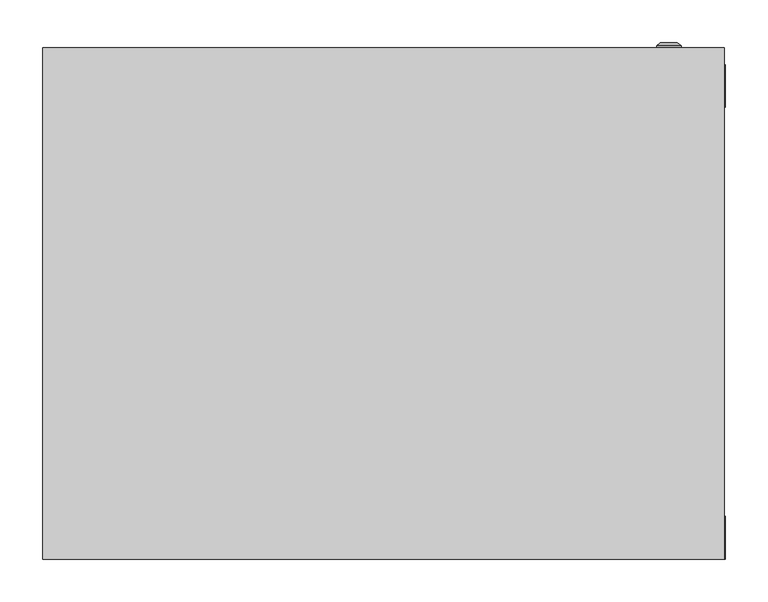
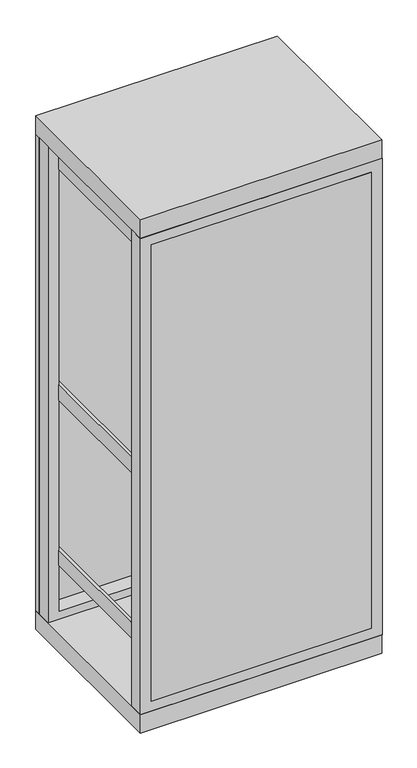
"""IFC4 building model written with IfcOpenShell, lengths in millimetres: proxy geometry, ВРУ-1 : ВРУ-1_1800х800х600."""

import ifcopenshell
import ifcopenshell.guid

model = None  # the IFC model being written
_history = None  # IfcOwnerHistory: only IFC2X3 demands one
_inside = {}  # id of a spatial element -> (the spatial element, [elements in it])
_under = {}  # id of a project, library or spatial element -> (it, [spatial elements below it])
_declared = {}  # id of a project -> (the project, [libraries it declares])
_typed = {}  # id of a type object -> (the type object, [elements of that type])
_made_of = {}  # id of a material, layer set ... -> (it, [elements and type objects made of it])


def new_model(schema):
    """Start an empty IFC model of exactly this schema.

    Asked for "IFC4X3", IfcOpenShell would pick the latest addendum, in which some entities
    have other attributes; the version numbers below select the first issue.
    IFC2X3 requires an IfcOwnerHistory on every rooted entity: one is made here for all.
    """
    global model, _history
    if schema == "IFC4X3":
        model = ifcopenshell.file(schema_version=(4, 3, 0, 0))
    else:
        model = ifcopenshell.file(schema=schema)
    _inside.clear()
    _under.clear()
    _declared.clear()
    _typed.clear()
    _made_of.clear()
    _history = None
    if model.schema == "IFC2X3":
        org = make("IfcOrganization", Name="unknown")
        user = make(
            "IfcPersonAndOrganization",
            ThePerson=make("IfcPerson", FamilyName="unknown"),
            TheOrganization=org,
        )
        app = make(
            "IfcApplication",
            ApplicationDeveloper=org,
            Version="unknown",
            ApplicationFullName="unknown",
            ApplicationIdentifier="unknown",
        )
        _history = make(
            "IfcOwnerHistory",
            OwningUser=user,
            OwningApplication=app,
            ChangeAction="ADDED",
            CreationDate=0,
        )
    return model


def make(cls, **values):
    """One entity of the class cls with the attributes given. An attribute that is None is left unset."""
    return model.create_entity(
        cls, **{name: value for name, value in values.items() if value is not None}
    )


def rooted(cls, **values):
    """An entity with a GlobalId (a new one), such as an element, a storey or a relation."""
    return make(cls, GlobalId=ifcopenshell.guid.new(), OwnerHistory=_history, **values)


def si_unit(unit_type, name, prefix=None):
    """IfcSIUnit, for example si_unit("LENGTHUNIT", "METRE", prefix="MILLI")."""
    return make("IfcSIUnit", UnitType=unit_type, Prefix=prefix, Name=name)


def assignment(units):
    """IfcUnitAssignment: the units of a project."""
    return None if units is None else make("IfcUnitAssignment", Units=units)


def point(xyz):
    """IfcCartesianPoint."""
    return None if xyz is None else make("IfcCartesianPoint", Coordinates=xyz)


def direction(xyz):
    """IfcDirection."""
    return None if xyz is None else make("IfcDirection", DirectionRatios=xyz)


def frame(location, z_axis=None, x_axis=None):
    """IfcAxis2Placement3D, a coordinate frame: its origin and axes. An axis left out is left unset."""
    return make(
        "IfcAxis2Placement3D",
        Location=point(location),
        Axis=direction(z_axis),
        RefDirection=direction(x_axis),
    )


def origin():
    """The frame at (0, 0, 0) with its axes left unset."""
    return frame((0.0, 0.0, 0.0))


def origin_with_axes():
    """The frame at (0, 0, 0) with the z axis (0, 0, 1) and the x axis (1, 0, 0) written out."""
    return frame((0.0, 0.0, 0.0), z_axis=(0.0, 0.0, 1.0), x_axis=(1.0, 0.0, 0.0))


def place(relative_to, where):
    """IfcLocalPlacement: puts the frame where relative to a parent placement (None: the world)."""
    return make(
        "IfcLocalPlacement", PlacementRelTo=relative_to, RelativePlacement=where
    )


def context(
    kind, dimensions, precision=None, world=None, true_north=None, identifier=None
):
    """IfcGeometricRepresentationContext, for example the 3D "Model" context."""
    return make(
        "IfcGeometricRepresentationContext",
        ContextIdentifier=identifier,
        ContextType=kind,
        CoordinateSpaceDimension=dimensions,
        Precision=precision,
        WorldCoordinateSystem=world,
        TrueNorth=true_north,
    )


def project(units=None, contexts=None):
    """IfcProject with its units and contexts."""
    return rooted(
        "IfcProject",
        Name="project",
        RepresentationContexts=contexts,
        UnitsInContext=assignment(units),
    )


def spatial(cls, under=None, at=None, **own):
    """A site, building, storey or space (cls), placed at a placement, below another one or the project."""
    s = rooted(cls, ObjectPlacement=at, **own)
    if under is not None:
        _under.setdefault(under.id(), (under, []))[1].append(s)
    return s


def polyline(points):
    """IfcPolyline through the points."""
    return make("IfcPolyline", Points=[point(p) for p in points])


def circle_curve(where, radius):
    """IfcCircle in the frame where."""
    return make("IfcCircle", Position=where, Radius=radius)


def outline(outer, holes=None, kind="AREA"):
    """IfcArbitraryClosedProfileDef: a profile drawn as a closed curve; with holes, ...WithVoids."""
    if holes is None:
        return make("IfcArbitraryClosedProfileDef", ProfileType=kind, OuterCurve=outer)
    return make(
        "IfcArbitraryProfileDefWithVoids",
        ProfileType=kind,
        OuterCurve=outer,
        InnerCurves=holes,
    )


def extrude(swept, where, along, depth):
    """IfcExtrudedAreaSolid: the profile swept, set in the frame where, extruded along a direction by depth."""
    return make(
        "IfcExtrudedAreaSolid",
        SweptArea=swept,
        Position=where,
        ExtrudedDirection=direction(along),
        Depth=depth,
    )


def shape(context_of_items, identifier, shape_type, items):
    """IfcShapeRepresentation: the items that make up one representation, for example the "Body"."""
    return make(
        "IfcShapeRepresentation",
        ContextOfItems=context_of_items,
        RepresentationIdentifier=identifier,
        RepresentationType=shape_type,
        Items=items,
    )


def source(mapping_origin, context_of_items, identifier, shape_type, items):
    """IfcRepresentationMap: a shape defined once, which mapped items show again and again."""
    return make(
        "IfcRepresentationMap",
        MappingOrigin=mapping_origin,
        MappedRepresentation=shape(context_of_items, identifier, shape_type, items),
    )


def transform(
    local_origin,
    x_axis=None,
    y_axis=None,
    z_axis=None,
    scale=None,
    scale2=None,
    scale3=None,
    uniform=True,
):
    """IfcCartesianTransformationOperator3D, or its non-uniform kind. x_axis, y_axis, z_axis: its Axis1, 2, 3."""
    if uniform:
        return make(
            "IfcCartesianTransformationOperator3D",
            Axis1=direction(x_axis),
            Axis2=direction(y_axis),
            LocalOrigin=point(local_origin),
            Scale=scale,
            Axis3=direction(z_axis),
        )
    return make(
        "IfcCartesianTransformationOperator3DnonUniform",
        Axis1=direction(x_axis),
        Axis2=direction(y_axis),
        LocalOrigin=point(local_origin),
        Scale=scale,
        Axis3=direction(z_axis),
        Scale2=scale2,
        Scale3=scale3,
    )


def mapped(mapping_source, mapping_target):
    """IfcMappedItem: shows the shape of a source again, moved by a transform."""
    return make(
        "IfcMappedItem", MappingSource=mapping_source, MappingTarget=mapping_target
    )


def made_of(thing, what):
    """Note that an element or type object is made of a material, layer set ...; save() writes the relation."""
    if what is not None:
        _made_of.setdefault(what.id(), (what, []))[1].append(thing)
    return thing


def element(
    cls,
    number,
    at=None,
    inside=None,
    cuts=None,
    type_object=None,
    material=None,
    context=None,
    identifier="Body",
    shape_type=None,
    held_by="IfcProductDefinitionShape",
    body=None,
    shapes=None,
    **own,
):
    """One element of the class cls, such as IfcWall. Its Tag is "e" and its number.

    at: its placement. inside: the storey or other place that contains it. cuts: it is an
    opening in that element (IfcRelVoidsElement). A single representation is given by context,
    identifier, shape_type and body (its items); several are given by shapes. held_by: the class
    of the entity that holds the representations. save() writes the other relations.
    """
    e = rooted(cls, Tag="e%d" % number, ObjectPlacement=at, **own)
    if body is not None:
        shapes = [shape(context, identifier, shape_type, body)]
    if shapes is not None:
        e.Representation = make(held_by, Representations=shapes)
    if inside is not None:
        _inside.setdefault(inside.id(), (inside, []))[1].append(e)
    if cuts is not None:
        rooted(
            "IfcRelVoidsElement", RelatingBuildingElement=cuts, RelatedOpeningElement=e
        )
    if type_object is not None:
        _typed.setdefault(type_object.id(), (type_object, []))[1].append(e)
    return made_of(e, material)


def aggregate(whole, parts):
    """IfcRelAggregates: a whole, such as a stair, and the parts it consists of."""
    return rooted("IfcRelAggregates", RelatingObject=whole, RelatedObjects=parts)


def save(model, path):
    """Write the relations noted so far, then the file.

    IfcRelAggregates (storeys below a building ...), IfcRelContainedInSpatialStructure (elements
    in a storey), IfcRelDefinesByType, IfcRelAssociatesMaterial and IfcRelDeclares: one each for
    every whole, place, type object, material and project.
    """
    for whole, parts in _under.values():
        aggregate(whole, parts)
    for where, things in _inside.values():
        rooted(
            "IfcRelContainedInSpatialStructure",
            RelatedElements=things,
            RelatingStructure=where,
        )
    for kind, things in _typed.values():
        rooted("IfcRelDefinesByType", RelatedObjects=things, RelatingType=kind)
    for what, things in _made_of.values():
        rooted("IfcRelAssociatesMaterial", RelatedObjects=things, RelatingMaterial=what)
    for by, libraries in _declared.values():
        rooted("IfcRelDeclares", RelatingContext=by, RelatedDefinitions=libraries)
    model.write(path)


def plane_surface(at):
    """IfcPlane: the flat surface through the origin of the frame at, square to its z axis."""
    return make("IfcPlane", Position=at)


def cylinder_surface(at, radius):
    """IfcCylindricalSurface: all points at the distance radius from the z axis of the frame at."""
    return make("IfcCylindricalSurface", Position=at, Radius=radius)


def revolved_surface(curve, axis_point, axis_direction):
    """IfcSurfaceOfRevolution: the curve turned about the line through axis_point along axis_direction."""
    return make(
        "IfcSurfaceOfRevolution",
        SweptCurve=make("IfcArbitraryOpenProfileDef", ProfileType="CURVE", Curve=curve),
        AxisPosition=make("IfcAxis1Placement", Location=point(axis_point), Axis=direction(axis_direction)),
    )


def advanced_brep(points, edges, surfaces, faces):
    """IfcAdvancedBrep: a solid bounded by faces that lie on surfaces and meet in shared edges.

    An edge is (start, end): straight between two places in points (the first is 0);
    or (start, end, curve); or (start, end, curve, False) where it runs against its curve.
    A face is (place in surfaces, loops), or (place, loops, False) where it looks against
    its surface's normal. A loop lists edges by number (the first is 1), with a minus sign
    where the edge is run from its end to its start. The first loop is the outer one.
    """
    corners = [point(p) for p in points]
    vertices = [make("IfcVertexPoint", VertexGeometry=c) for c in corners]
    made = []
    for start, end, *more in edges:
        made.append(
            make(
                "IfcEdgeCurve",
                EdgeStart=vertices[start],
                EdgeEnd=vertices[end],
                EdgeGeometry=more[0] if more else make("IfcPolyline", Points=[corners[start], corners[end]]),
                SameSense=more[1] if len(more) > 1 else True,
            )
        )
    hull = []
    for where, loops, *sense in faces:
        bounds = []
        for j, loop in enumerate(loops):
            ring = [make("IfcOrientedEdge", EdgeElement=made[abs(k) - 1], Orientation=k > 0) for k in loop]
            bounds.append(
                make(
                    "IfcFaceOuterBound" if j == 0 else "IfcFaceBound",
                    Bound=make("IfcEdgeLoop", EdgeList=ring),
                    Orientation=True,
                )
            )
        hull.append(make("IfcAdvancedFace", Bounds=bounds, FaceSurface=surfaces[where], SameSense=sense[0] if sense else True))
    return make("IfcAdvancedBrep", Outer=make("IfcClosedShell", CfsFaces=hull))


def electrical_equipment_a20aefed(model_context):
    return source(origin(), model_context, "Body", "SolidModel", [
        extrude(outline(polyline([(365.8707865, 0.0), (-363.3426966, 0.0), (-363.3426966, 10.0), (365.8707865, 10.0), (365.8707865, 0.0)])), frame((0.0, 0.0, 99.1378449), z_axis=(0.0, 0.0, 1.0), x_axis=(1.0, 0.0, 0.0)), (0.0, 0.0, 1.0), 1599.6160511),
        extrude(outline(polyline([(-355.8707865, 125.9831461), (-315.8707865, 125.9831461), (-315.8707865, 93.1179775), (-318.8707865, 93.1179775), (-318.8707865, 122.9831461), (-352.8707865, 122.9831461), (-352.8707865, 93.1179775), (-355.8707865, 93.1179775), (-355.8707865, 125.9831461)])), frame((0.0, 0.0, 189.6067416), z_axis=(0.0, 0.0, 1.0), x_axis=(1.0, 0.0, 0.0)), (0.0, 0.0, 1.0), 1545.3932584),
        extrude(outline(polyline([(315.8707865, 125.9831461), (355.8707865, 125.9831461), (355.8707865, 93.1179775), (352.8707865, 93.1179775), (352.8707865, 122.9831461), (318.8707865, 122.9831461), (318.8707865, 93.1179775), (315.8707865, 93.1179775), (315.8707865, 125.9831461)])), frame((0.0, 0.0, 189.6067416), z_axis=(0.0, 0.0, 1.0), x_axis=(1.0, 0.0, 0.0)), (0.0, 0.0, 1.0), 1545.3932584),
        extrude(outline(polyline([(-355.8707865, 10.0), (-365.8707865, 10.0), (-365.8707865, 580.0), (-355.8707865, 580.0), (-355.8707865, 10.0)])), frame((0.0, 0.0, 1645.5966059), z_axis=(0.0, 0.0, 1.0), x_axis=(1.0, 0.0, 0.0)), (0.0, 0.0, 1.0), 53.0898876),
        extrude(outline(polyline([(365.8707865, 10.0), (355.8707865, 10.0), (355.8707865, 580.0), (365.8707865, 580.0), (365.8707865, 10.0)])), frame((0.0, 0.0, 1645.5966059), z_axis=(0.0, 0.0, 1.0), x_axis=(1.0, 0.0, 0.0)), (0.0, 0.0, 1.0), 53.0898876),
        extrude(outline(polyline([(-355.8707865, 10.0), (-365.8707865, 10.0), (-365.8707865, 580.0), (-355.8707865, 580.0), (-355.8707865, 10.0)])), frame((0.0, 0.0, 255.5966059), z_axis=(0.0, 0.0, 1.0), x_axis=(1.0, 0.0, 0.0)), (0.0, 0.0, 1.0), 53.0898876),
        extrude(outline(polyline([(365.8707865, 10.0), (355.8707865, 10.0), (355.8707865, 580.0), (365.8707865, 580.0), (365.8707865, 10.0)])), frame((0.0, 0.0, 255.5966059), z_axis=(0.0, 0.0, 1.0), x_axis=(1.0, 0.0, 0.0)), (0.0, 0.0, 1.0), 53.0898876),
        extrude(outline(polyline([(-355.8707865, 10.0), (-365.8707865, 10.0), (-365.8707865, 580.0), (-355.8707865, 580.0), (-355.8707865, 10.0)])), frame((0.0, 0.0, 835.5966059), z_axis=(0.0, 0.0, 1.0), x_axis=(1.0, 0.0, 0.0)), (0.0, 0.0, 1.0), 53.0898876),
        extrude(outline(polyline([(365.8707865, 0.0), (355.8707865, 0.0), (355.8707865, 580.0), (365.8707865, 580.0), (365.8707865, 0.0)])), frame((0.0, 0.0, 835.5966059), z_axis=(0.0, 0.0, 1.0), x_axis=(1.0, 0.0, 0.0)), (0.0, 0.0, 1.0), 53.0898876),
        extrude(outline(polyline([(1734.1471543, -400.0), (65.0187804, -400.0), (65.0187804, 401.2640449), (1734.1471543, 401.2640449), (1734.1471543, -400.0)]), holes=[polyline([(99.1378449, 365.8707865), (99.1378449, -363.3426966), (1698.7538959, -363.3426966), (1698.7538959, 365.8707865), (99.1378449, 365.8707865)])]), frame((0.0, 0.0, 0.0), z_axis=(0.0, 1.0, 0.0), x_axis=(0.0, 0.0, 1.0)), (0.0, 0.0, 1.0), 50.0),
        extrude(outline(polyline([(1735.0, -400.0), (65.0187804, -400.0), (65.0187804, 401.2640449), (1735.0, 401.2640449), (1735.0, -400.0)]), holes=[polyline([(93.3701084, 365.8707865), (93.3701084, -363.3426966), (1692.9861595, -363.3426966), (1692.9861595, 365.8707865), (93.3701084, 365.8707865)])]), frame((0.0, 530.0, 0.0), z_axis=(0.0, 1.0, 0.0), x_axis=(0.0, 0.0, 1.0)), (0.0, 0.0, 1.0), 50.0),
        extrude(outline(polyline([(400.0067809, 600.0), (400.0067809, 0.0), (-400.0, 0.0), (-400.0, 600.0), (400.0067809, 600.0)])), frame((0.0, 0.0, 1735.0), z_axis=(0.0, 0.0, 1.0), x_axis=(1.0, 0.0, 0.0)), (0.0, 0.0, 1.0), 65.0),
        advanced_brep(
        [(320.669873, 600.0, 415.0), (349.330127, 600.0, 415.0), (335.0, 600.0, 415.0), (320.669873, 602.366592, 415.0), (349.330127, 602.366592, 415.0), (325.0, 606.0, 415.0), (345.0, 606.0, 415.0), (333.1080471, 606.0, 415.0), (336.8919529, 606.0, 415.0), (333.1080471, 604.9822294, 415.0), (336.8919529, 604.9822294, 415.0), (335.0, 604.9822294, 415.0)],
        [
            (0, 1, circle_curve(frame((335.0, 600.0, 415.0), z_axis=(0.0, -1.0, 0.0), x_axis=(1.0, 0.0, 0.0)), 14.330127)),
            (1, 2),
            (2, 0),
            (1, 0, circle_curve(frame((335.0, 600.0, 415.0), z_axis=(0.0, -1.0, 0.0), x_axis=(1.0, 0.0, 0.0)), 14.330127)),
            (3, 4, circle_curve(frame((335.0, 602.366592, 415.0), z_axis=(0.0, -1.0, 0.0), x_axis=(1.0, 0.0, 0.0)), 14.330127)),
            (4, 1),
            (0, 3),
            (4, 3, circle_curve(frame((335.0, 602.366592, 415.0), z_axis=(0.0, -1.0, 0.0), x_axis=(1.0, 0.0, 0.0)), 14.330127)),
            (5, 6, circle_curve(frame((335.0, 606.0, 415.0), z_axis=(0.0, -1.0, 0.0), x_axis=(1.0, 0.0, 0.0)), 10.0)),
            (6, 4),
            (3, 5),
            (6, 5, circle_curve(frame((335.0, 606.0, 415.0), z_axis=(0.0, -1.0, 0.0), x_axis=(1.0, 0.0, 0.0)), 10.0)),
            (7, 8, circle_curve(frame((335.0, 606.0, 415.0), z_axis=(0.0, -1.0, 0.0), x_axis=(1.0, 0.0, 0.0)), 1.8919529)),
            (8, 6),
            (5, 7),
            (8, 7, circle_curve(frame((335.0, 606.0, 415.0), z_axis=(0.0, -1.0, 0.0), x_axis=(1.0, 0.0, 0.0)), 1.8919529)),
            (9, 10, circle_curve(frame((335.0, 604.9822294, 415.0), z_axis=(0.0, -1.0, 0.0), x_axis=(1.0, 0.0, 0.0)), 1.8919529)),
            (10, 8),
            (7, 9),
            (10, 9, circle_curve(frame((335.0, 604.9822294, 415.0), z_axis=(0.0, -1.0, 0.0), x_axis=(1.0, 0.0, 0.0)), 1.8919529)),
            (11, 10),
            (9, 11),
        ],
        [
            plane_surface(frame((335.0, 600.0, 415.0), z_axis=(0.0, -1.0, 0.0), x_axis=(1.0, 0.0, 0.0))),
            cylinder_surface(frame((335.0, 613.1348851, 415.0), z_axis=(0.0, 1.0, 0.0), x_axis=(1.0, 0.0, 0.0)), 14.330127),
            revolved_surface(polyline([(349.330127, 602.366592, 415.0), (345.0, 606.0, 415.0)]), (335.0, 613.1348851, 415.0), (0.0, 1.0, 0.0)),
            plane_surface(frame((335.0, 606.0, 415.0), z_axis=(0.0, 1.0, 0.0), x_axis=(1.0, 0.0, 0.0))),
            revolved_surface(polyline([(336.8919529, 606.0, 415.0), (336.8919529, 604.9822294, 415.0)]), (335.0, 613.1348851, 415.0), (0.0, 1.0, 0.0)),
            plane_surface(frame((335.0, 604.9822294, 415.0), z_axis=(0.0, 1.0, 0.0), x_axis=(1.0, 0.0, 0.0))),
        ],
        [
            (0, [[1, 2, 3]]),
            (0, [[4, -3, -2]]),
            (1, [[5, 6, -1, 7]]),
            (1, [[8, -7, -4, -6]]),
            (2, [[9, 10, -5, 11]]),
            (2, [[12, -11, -8, -10]]),
            (3, [[13, 14, -9, 15]]),
            (3, [[16, -15, -12, -14]]),
            (4, [[17, 18, -13, 19]]),
            (4, [[20, -19, -16, -18]]),
            (5, [[21, -17, 22]]),
            (5, [[-22, -20, -21]]),
        ],
    ),
        advanced_brep(
        [(320.669873, 600.0, 1385.0), (349.330127, 600.0, 1385.0), (335.0, 600.0, 1385.0), (320.669873, 602.366592, 1385.0), (349.330127, 602.366592, 1385.0), (325.0, 606.0, 1385.0), (345.0, 606.0, 1385.0), (333.1080471, 606.0, 1385.0), (336.8919529, 606.0, 1385.0), (333.1080471, 604.9822294, 1385.0), (336.8919529, 604.9822294, 1385.0), (335.0, 604.9822294, 1385.0)],
        [
            (0, 1, circle_curve(frame((335.0, 600.0, 1385.0), z_axis=(0.0, -1.0, 0.0), x_axis=(1.0, 0.0, 0.0)), 14.330127)),
            (1, 2),
            (2, 0),
            (1, 0, circle_curve(frame((335.0, 600.0, 1385.0), z_axis=(0.0, -1.0, 0.0), x_axis=(1.0, 0.0, 0.0)), 14.330127)),
            (3, 4, circle_curve(frame((335.0, 602.366592, 1385.0), z_axis=(0.0, -1.0, 0.0), x_axis=(1.0, 0.0, 0.0)), 14.330127)),
            (4, 1),
            (0, 3),
            (4, 3, circle_curve(frame((335.0, 602.366592, 1385.0), z_axis=(0.0, -1.0, 0.0), x_axis=(1.0, 0.0, 0.0)), 14.330127)),
            (5, 6, circle_curve(frame((335.0, 606.0, 1385.0), z_axis=(0.0, -1.0, 0.0), x_axis=(1.0, 0.0, 0.0)), 10.0)),
            (6, 4),
            (3, 5),
            (6, 5, circle_curve(frame((335.0, 606.0, 1385.0), z_axis=(0.0, -1.0, 0.0), x_axis=(1.0, 0.0, 0.0)), 10.0)),
            (7, 8, circle_curve(frame((335.0, 606.0, 1385.0), z_axis=(0.0, -1.0, 0.0), x_axis=(1.0, 0.0, 0.0)), 1.8919529)),
            (8, 6),
            (5, 7),
            (8, 7, circle_curve(frame((335.0, 606.0, 1385.0), z_axis=(0.0, -1.0, 0.0), x_axis=(1.0, 0.0, 0.0)), 1.8919529)),
            (9, 10, circle_curve(frame((335.0, 604.9822294, 1385.0), z_axis=(0.0, -1.0, 0.0), x_axis=(1.0, 0.0, 0.0)), 1.8919529)),
            (10, 8),
            (7, 9),
            (10, 9, circle_curve(frame((335.0, 604.9822294, 1385.0), z_axis=(0.0, -1.0, 0.0), x_axis=(1.0, 0.0, 0.0)), 1.8919529)),
            (11, 10),
            (9, 11),
        ],
        [
            plane_surface(frame((335.0, 600.0, 1385.0), z_axis=(0.0, -1.0, 0.0), x_axis=(1.0, 0.0, 0.0))),
            cylinder_surface(frame((335.0, 613.1348851, 1385.0), z_axis=(0.0, 1.0, 0.0), x_axis=(1.0, 0.0, 0.0)), 14.330127),
            revolved_surface(polyline([(349.330127, 602.366592, 1385.0), (345.0, 606.0, 1385.0)]), (335.0, 613.1348851, 1385.0), (0.0, 1.0, 0.0)),
            plane_surface(frame((335.0, 606.0, 1385.0), z_axis=(0.0, 1.0, 0.0), x_axis=(1.0, 0.0, 0.0))),
            revolved_surface(polyline([(336.8919529, 606.0, 1385.0), (336.8919529, 604.9822294, 1385.0)]), (335.0, 613.1348851, 1385.0), (0.0, 1.0, 0.0)),
            plane_surface(frame((335.0, 604.9822294, 1385.0), z_axis=(0.0, 1.0, 0.0), x_axis=(1.0, 0.0, 0.0))),
        ],
        [
            (0, [[1, 2, 3]]),
            (0, [[4, -3, -2]]),
            (1, [[5, 6, -1, 7]]),
            (1, [[8, -7, -4, -6]]),
            (2, [[9, 10, -5, 11]]),
            (2, [[12, -11, -8, -10]]),
            (3, [[13, 14, -9, 15]]),
            (3, [[16, -15, -12, -14]]),
            (4, [[17, 18, -13, 19]]),
            (4, [[20, -19, -16, -18]]),
            (5, [[21, -17, 22]]),
            (5, [[-22, -20, -21]]),
        ],
    ),
        extrude(outline(polyline([(400.0067809, 600.0), (400.0067809, 0.0), (-400.0, 0.0), (-400.0, 600.0), (400.0067809, 600.0)])), origin_with_axes(), (0.0, 0.0, 1.0), 65.0187804),
        extrude(outline(polyline([(400.0, 580.0), (-400.0, 580.0), (-400.0, 600.0), (400.0, 600.0), (400.0, 580.0)])), frame((0.0, 0.0, 65.0187804), z_axis=(0.0, 0.0, 1.0), x_axis=(1.0, 0.0, 0.0)), (0.0, 0.0, 1.0), 1669.9812196),
    ])


if __name__ == "__main__":
    model = new_model("IFC4")
    model_context = context("Model", 3, world=origin())
    ifc_project = project(units=[si_unit("LENGTHUNIT", "METRE", prefix="MILLI")], contexts=[model_context])
    site = spatial("IfcSite", under=ifc_project)
    building = spatial("IfcBuilding", under=site)
    placement = place(None, origin())
    electrical_equipment_shape = electrical_equipment_a20aefed(model_context)
    element("IfcBuildingElementProxy", 1, Name="ВРУ-1 : ВРУ-1_1800х800х600", ObjectType="ВРУ-1 : ВРУ-1_1800х800х600", at=placement, inside=building, context=model_context, shape_type="MappedRepresentation", body=[
        mapped(electrical_equipment_shape, transform((0.0, 0.0, 0.0), x_axis=(1.0, 0.0, 0.0), y_axis=(0.0, 1.0, 0.0), z_axis=(0.0, 0.0, 1.0))),
    ])
    save(model, "model.ifc")
